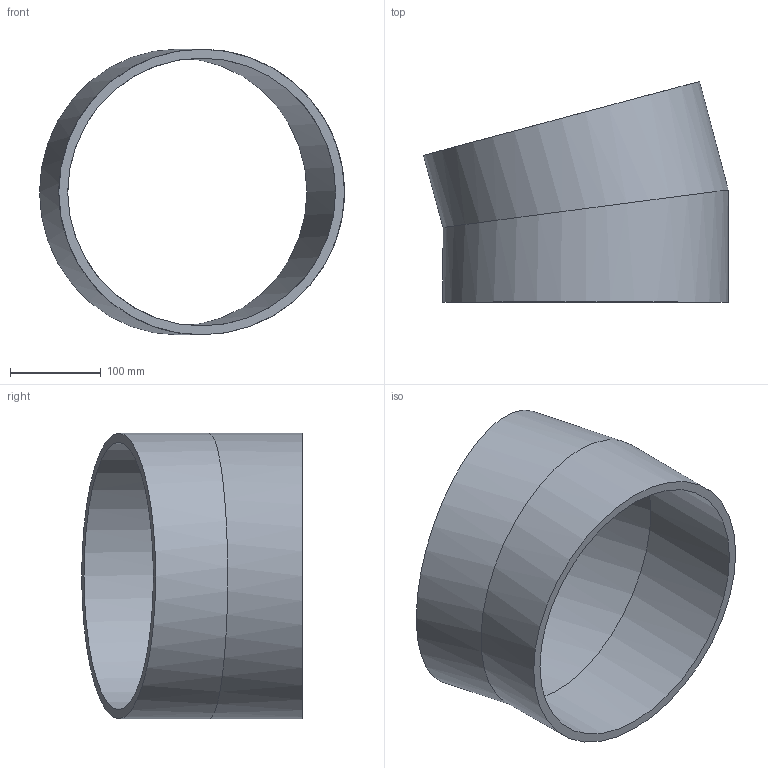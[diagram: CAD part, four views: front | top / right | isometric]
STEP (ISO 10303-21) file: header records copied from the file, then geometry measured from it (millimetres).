
FILE_DESCRIPTION(/* description */ (''),/* implementation_level */ '2;1');
FILE_NAME(/* name */ 'Z:\Geberit\Export\NewStep\372015.stp',/* time_stamp */ '2014-04-02T08:06:04+02:00',/* author */ ('nelson'),/* organization */ (''),/* preprocessor_version */ 'ST-DEVELOPER v15.2',/* originating_system */ 'Autodesk Inventor 2014',/* authorisation */ '');
FILE_SCHEMA (('AUTOMOTIVE_DESIGN { 1 0 10303 214 3 1 1 }'));
Length unit declared in the file: millimetre
Products named in the file (1): 372015
Bounding box: 336.29 x 243.25 x 315 mm (x, y, z)
Volume: 1935653.8 mm3; surface area: 413824.2 mm2
Topology: 1 solids, 1 shells, 6 faces, 16 edges, 12 vertices
Faces by surface type: cylinder 4, plane 2
Full cylindrical faces by diameter (mm): 295.4 x2, 315 x2
Entity records: 169 total; most frequent: DIRECTION 30, CARTESIAN_POINT 23, ORIENTED_EDGE 16, AXIS2_PLACEMENT_3D 15, EDGE_LOOP 12, FACE_BOUND 8, VERTEX_POINT 8, EDGE_CURVE 8
